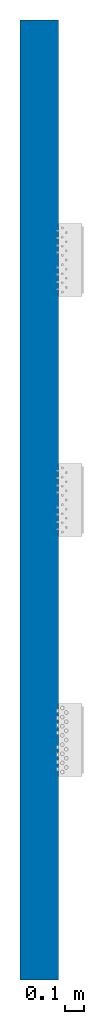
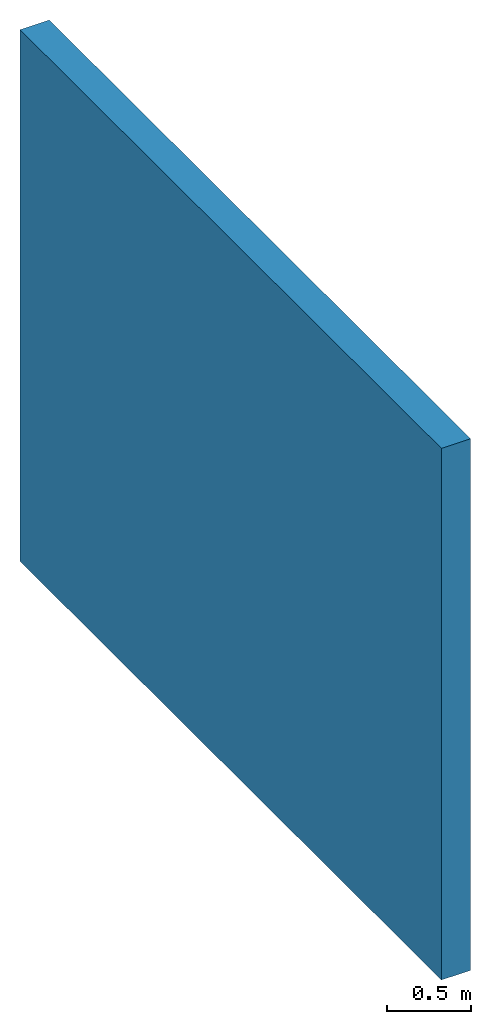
# One storey, incomplete: 1 wall.
"""IFC2X3 building model written with IfcOpenShell, lengths in metres."""

from ifc_helpers import new_model, entity, si_unit, converted_unit, derived_unit, direction, frame, frame_2d, origin, place, context, subcontext, project, spatial, rectangle, extrude, material, layer, layer_set, layer_usage, type_object, element, save


model = new_model("IFC2X3")

# Units and contexts
model_context = context("Model", 3, precision=1e-05, world=origin(), true_north=direction((6.12303176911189e-17, 1.0)))
body_context = subcontext(model_context, "Body", "Model", "MODEL_VIEW")
ifc_project = project(units=[si_unit("LENGTHUNIT", "METRE"), si_unit("AREAUNIT", "SQUARE_METRE"), si_unit("VOLUMEUNIT", "CUBIC_METRE"), converted_unit("PLANEANGLEUNIT", "DEGREE", entity("IfcRatioMeasure", 0.0174532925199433), si_unit("PLANEANGLEUNIT", "RADIAN"), dimensions=[0, 0, 0, 0, 0, 0, 0]), si_unit("MASSUNIT", "GRAM", prefix="KILO"), si_unit("TIMEUNIT", "SECOND"), si_unit("FREQUENCYUNIT", "HERTZ"), si_unit("THERMODYNAMICTEMPERATUREUNIT", "DEGREE_CELSIUS"), derived_unit("THERMALTRANSMITTANCEUNIT", [(si_unit("MASSUNIT", "GRAM", prefix="KILO"), 1), (si_unit("THERMODYNAMICTEMPERATUREUNIT", "KELVIN"), -1), (si_unit("TIMEUNIT", "SECOND"), -3)]), derived_unit("VOLUMETRICFLOWRATEUNIT", [(si_unit("LENGTHUNIT", "METRE"), 3), (si_unit("TIMEUNIT", "SECOND"), -1)]), si_unit("ELECTRICCURRENTUNIT", "AMPERE"), si_unit("ELECTRICVOLTAGEUNIT", "VOLT"), si_unit("POWERUNIT", "WATT"), si_unit("FORCEUNIT", "NEWTON", prefix="KILO"), si_unit("ILLUMINANCEUNIT", "LUX"), si_unit("LUMINOUSFLUXUNIT", "LUMEN"), si_unit("LUMINOUSINTENSITYUNIT", "CANDELA"), derived_unit("USERDEFINED", [(si_unit("MASSUNIT", "GRAM", prefix="KILO"), -1), (si_unit("LENGTHUNIT", "METRE"), -2), (si_unit("TIMEUNIT", "SECOND"), 3), (si_unit("LUMINOUSFLUXUNIT", "LUMEN"), 1)]), derived_unit("LINEARVELOCITYUNIT", [(si_unit("LENGTHUNIT", "METRE"), 1), (si_unit("TIMEUNIT", "SECOND"), -1)]), si_unit("PRESSUREUNIT", "PASCAL"), derived_unit("USERDEFINED", [(si_unit("LENGTHUNIT", "METRE"), -2), (si_unit("MASSUNIT", "GRAM", prefix="KILO"), 1), (si_unit("TIMEUNIT", "SECOND"), -2)])], contexts=[model_context])

# Site, building, storey
site_placement = place(None, origin())
site = spatial("IfcSite", under=ifc_project, at=site_placement, Name="Default", CompositionType="ELEMENT")
building_placement = place(site_placement, origin())
building = spatial("IfcBuilding", under=site, at=building_placement, CompositionType="ELEMENT")
storey_placement = place(building_placement, frame((0.0, 0.0, 37.55)))
storey = spatial("IfcBuildingStorey", under=building, at=storey_placement, Name="Level 0", CompositionType="ELEMENT", Elevation=37.55)

# Wall
ifc_material = material(Name="Default")
ifc_layer = layer(ifc_material, 0.2)
ifc_layer_set = layer_set([ifc_layer], Name="Basic Wall:200mm")
ifc_layer_usage = layer_usage(ifc_layer_set, "AXIS2", "NEGATIVE", 0.1)
wall_type = type_object("IfcWallType", Name="Basic Wall:200mm", PredefinedType="STANDARD", material=ifc_layer_set)
wall_placement = place(storey_placement, frame((15.1716033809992, 10.5522665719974, 0.0), z_axis=(0.0, 0.0, 1.0), x_axis=(0.0, 1.0, 0.0)))
element("IfcWallStandardCase", 1, at=wall_placement, inside=storey, type_object=wall_type, material=ifc_layer_usage, Name="Basic Wall:200mm", ObjectType="Basic Wall:200mm", context=body_context, shape_type="SweptSolid", body=[
    extrude(rectangle(XDim=4.99999999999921, YDim=0.200000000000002, at=frame_2d((2.49999999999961, -6.17561557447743e-16), x_axis=(-1.0, 0.0))), origin(), (0.0, 0.0, 1.0), 3.85),
])

save(model, "model.ifc")
